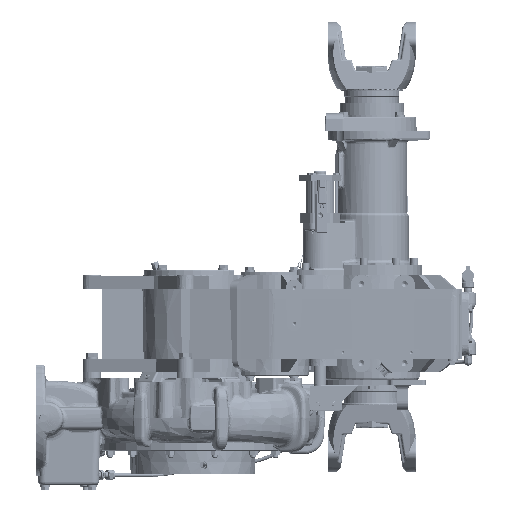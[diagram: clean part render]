
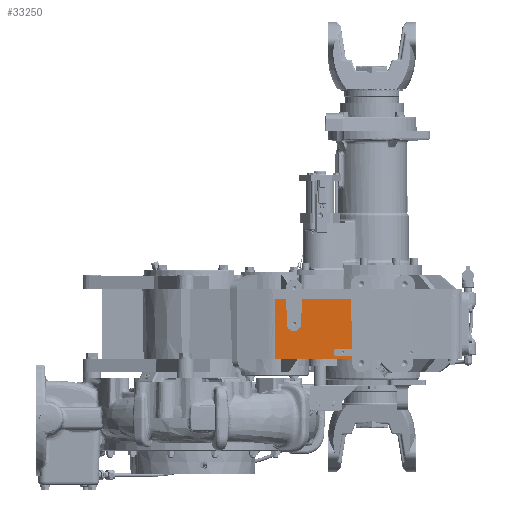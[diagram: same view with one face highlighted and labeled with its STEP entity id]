
A CAD part, left-side view. The second image highlights one B-rep face of the part: STEP entity #33250.
In plain terms, the highlighted planar face has unit normal (-1, 0, -0.018).
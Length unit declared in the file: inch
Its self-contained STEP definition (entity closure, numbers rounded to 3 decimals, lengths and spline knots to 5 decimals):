
#2659 = LINE ( 'NONE', #538813, #907716 ) ;
#5561 = VECTOR ( 'NONE', #624081, 39.37008 ) ;
#11364 = EDGE_LOOP ( 'NONE', ( #640514, #461170, #836702, #663861, #849968, #460154, #661758, #107638, #260238, #334453, #312518, #702476 ) ) ;
#25537 = LINE ( 'NONE', #597079, #930705 ) ;
#33250 = ADVANCED_FACE ( 'NONE', ( #568598 ), #447699, .T. ) ;
#58345 = LINE ( 'NONE', #839805, #935881 ) ;
#64275 = CARTESIAN_POINT ( 'NONE',  ( -4.6453, 5.89996, -2.44618 ) ) ;
#70422 = EDGE_CURVE ( 'NONE', #506615, #638615, #2659, .T. ) ;
#72098 = DIRECTION ( 'NONE',  ( 0., -1., 0. ) ) ;
#102026 = EDGE_CURVE ( 'NONE', #489327, #906015, #125451, .T. ) ;
#106008 = CARTESIAN_POINT ( 'NONE',  ( -4.60282, 1.35541, -4.88 ) ) ;
#107638 = ORIENTED_EDGE ( 'NONE', *, *, #70422, .T. ) ;
#125451 = LINE ( 'NONE', #1043341, #920622 ) ;
#133109 = DIRECTION ( 'NONE',  ( -0.017, 0., 1. ) ) ;
#163912 = CARTESIAN_POINT ( 'NONE',  ( -4.68967, 1.44229, 0.09579 ) ) ;
#165984 = DIRECTION ( 'NONE',  ( 0., -1., 0. ) ) ;
#176140 = CARTESIAN_POINT ( 'NONE',  ( -4.675, 5.92967, -0.74477 ) ) ;
#188291 = EDGE_CURVE ( 'NONE', #980737, #398067, #25537, .T. ) ;
#213677 = CARTESIAN_POINT ( 'NONE',  ( -4.64541, 5.4, -2.44 ) ) ;
#248436 = LINE ( 'NONE', #676476, #947710 ) ;
#252026 = DIRECTION ( 'NONE',  ( 0.017, -0.017, -1. ) ) ;
#260238 = ORIENTED_EDGE ( 'NONE', *, *, #978483, .T. ) ;
#280895 = VECTOR ( 'NONE', #649199, 39.37008 ) ;
#283340 = EDGE_CURVE ( 'NONE', #829088, #930241, #910820, .T. ) ;
#285345 = LINE ( 'NONE', #605362, #929779 ) ;
#298029 = DIRECTION ( 'NONE',  ( -1., 0., -0.017 ) ) ;
#307591 = VERTEX_POINT ( 'NONE', #587047 ) ;
#312518 = ORIENTED_EDGE ( 'NONE', *, *, #188291, .F. ) ;
#314839 = DIRECTION ( 'NONE',  ( 0., 1., 0. ) ) ;
#334453 = ORIENTED_EDGE ( 'NONE', *, *, #1117841, .F. ) ;
#339201 = CARTESIAN_POINT ( 'NONE',  ( -4.60282, 6.72903, -4.88 ) ) ;
#356402 = CARTESIAN_POINT ( 'NONE',  ( -4.61499, 1.36759, -4.1825 ) ) ;
#366012 = CARTESIAN_POINT ( 'NONE',  ( -4.6868, 4.8225, -0.06862 ) ) ;
#366898 = CARTESIAN_POINT ( 'NONE',  ( -4.64513, 4.90026, -2.45627 ) ) ;
#367540 = EDGE_CURVE ( 'NONE', #906015, #1007411, #718679, .T. ) ;
#371761 = VERTEX_POINT ( 'NONE', #106008 ) ;
#398067 = VERTEX_POINT ( 'NONE', #824204 ) ;
#401162 = CARTESIAN_POINT ( 'NONE',  ( -4.60622, 2.38, -4.685 ) ) ;
#419778 = EDGE_CURVE ( 'NONE', #1007411, #307591, #58345, .T. ) ;
#420025 = VERTEX_POINT ( 'NONE', #176140 ) ;
#447699 = PLANE ( 'NONE',  #833052 ) ;
#460154 = ORIENTED_EDGE ( 'NONE', *, *, #1109814, .F. ) ;
#461170 = ORIENTED_EDGE ( 'NONE', *, *, #367540, .F. ) ;
#489327 = VERTEX_POINT ( 'NONE', #748247 ) ;
#504054 = DIRECTION ( 'NONE',  ( 0., -1., 0. ) ) ;
#506615 = VERTEX_POINT ( 'NONE', #1040665 ) ;
#528444 = CARTESIAN_POINT ( 'NONE',  ( -4.68967, 1.44229, 0.09579 ) ) ;
#535849 = DIRECTION ( 'NONE',  ( -0.017, 0., 1. ) ) ;
#538813 = CARTESIAN_POINT ( 'NONE',  ( -4.688, 6.72903, 0. ) ) ;
#568598 = FACE_OUTER_BOUND ( 'NONE', #11364, .T. ) ;
#583530 = VECTOR ( 'NONE', #720849, 39.37008 ) ;
#587047 = CARTESIAN_POINT ( 'NONE',  ( -4.61499, 2.38, -4.1825 ) ) ;
#597079 = CARTESIAN_POINT ( 'NONE',  ( -4.60622, 6.93, -4.685 ) ) ;
#605362 = CARTESIAN_POINT ( 'NONE',  ( -4.60282, 12.43, -4.88 ) ) ;
#624081 = DIRECTION ( 'NONE',  ( 0.017, -0.017, -1. ) ) ;
#636535 = CARTESIAN_POINT ( 'NONE',  ( -4.6883, 5.94297, 0.01723 ) ) ;
#638615 = VERTEX_POINT ( 'NONE', #339201 ) ;
#640514 = ORIENTED_EDGE ( 'NONE', *, *, #419778, .F. ) ;
#649199 = DIRECTION ( 'NONE',  ( -0.017, -0.033, 0.999 ) ) ;
#661758 = ORIENTED_EDGE ( 'NONE', *, *, #812506, .F. ) ;
#663861 = ORIENTED_EDGE ( 'NONE', *, *, #996983, .F. ) ;
#676476 = CARTESIAN_POINT ( 'NONE',  ( -4.675, 6.93, -0.74477 ) ) ;
#691254 = CARTESIAN_POINT ( 'NONE',  ( -4.60622, 2.8825, -4.685 ) ) ;
#702476 = ORIENTED_EDGE ( 'NONE', *, *, #1078851, .F. ) ;
#718679 = LINE ( 'NONE', #163912, #1074934 ) ;
#720849 = DIRECTION ( 'NONE',  ( 0.017, -0.017, -1. ) ) ;
#722472 = DIRECTION ( 'NONE',  ( 0.017, 0., -1. ) ) ;
#748247 = CARTESIAN_POINT ( 'NONE',  ( -4.675, 4.84452, -0.74477 ) ) ;
#792742 = CARTESIAN_POINT ( 'NONE',  ( -4.688, 6.93, 0. ) ) ;
#812506 = EDGE_CURVE ( 'NONE', #506615, #420025, #248436, .T. ) ;
#824204 = CARTESIAN_POINT ( 'NONE',  ( -4.60622, 1.35881, -4.685 ) ) ;
#829088 = VERTEX_POINT ( 'NONE', #64275 ) ;
#833052 = AXIS2_PLACEMENT_3D ( 'NONE', #792742, #972582, #535849 ) ;
#836702 = ORIENTED_EDGE ( 'NONE', *, *, #102026, .F. ) ;
#839805 = CARTESIAN_POINT ( 'NONE',  ( -4.61499, 6.93, -4.1825 ) ) ;
#849968 = ORIENTED_EDGE ( 'NONE', *, *, #283340, .F. ) ;
#867386 = CARTESIAN_POINT ( 'NONE',  ( -4.675, 1.42761, -0.74477 ) ) ;
#906015 = VERTEX_POINT ( 'NONE', #867386 ) ;
#907716 = VECTOR ( 'NONE', #722472, 39.37008 ) ;
#910820 = CIRCLE ( 'NONE', #1012317, 0.5 ) ;
#920622 = VECTOR ( 'NONE', #165984, 39.37008 ) ;
#929779 = VECTOR ( 'NONE', #1130159, 39.37008 ) ;
#930241 = VERTEX_POINT ( 'NONE', #366898 ) ;
#930705 = VECTOR ( 'NONE', #72098, 39.37008 ) ;
#935881 = VECTOR ( 'NONE', #314839, 39.37008 ) ;
#947710 = VECTOR ( 'NONE', #504054, 39.37008 ) ;
#959448 = CARTESIAN_POINT ( 'NONE',  ( -4.61499, 2.8825, -4.1825 ) ) ;
#965836 = LINE ( 'NONE', #366012, #280895 ) ;
#972582 = DIRECTION ( 'NONE',  ( -1., 0., -0.017 ) ) ;
#972833 =( BOUNDED_CURVE ( )  B_SPLINE_CURVE ( 3, ( #1036269, #959448, #691254, #1047522 ),
 .UNSPECIFIED., .F., .F. ) 
 B_SPLINE_CURVE_WITH_KNOTS ( ( 4, 4 ),
 ( 0., 3.14159 ),
 .UNSPECIFIED. ) 
 CURVE ( )  GEOMETRIC_REPRESENTATION_ITEM ( )  RATIONAL_B_SPLINE_CURVE ( ( 1., 0.333, 0.333, 1. ) ) 
 REPRESENTATION_ITEM ( '' )  );
#978483 = EDGE_CURVE ( 'NONE', #638615, #371761, #285345, .T. ) ;
#978751 = LINE ( 'NONE', #528444, #5561 ) ;
#980737 = VERTEX_POINT ( 'NONE', #401162 ) ;
#996983 = EDGE_CURVE ( 'NONE', #930241, #489327, #965836, .T. ) ;
#1007411 = VERTEX_POINT ( 'NONE', #356402 ) ;
#1012317 = AXIS2_PLACEMENT_3D ( 'NONE', #213677, #298029, #133109 ) ;
#1036269 = CARTESIAN_POINT ( 'NONE',  ( -4.61499, 2.38, -4.1825 ) ) ;
#1040665 = CARTESIAN_POINT ( 'NONE',  ( -4.675, 6.72903, -0.74477 ) ) ;
#1043341 = CARTESIAN_POINT ( 'NONE',  ( -4.675, 6.93, -0.74477 ) ) ;
#1047522 = CARTESIAN_POINT ( 'NONE',  ( -4.60622, 2.38, -4.685 ) ) ;
#1074934 = VECTOR ( 'NONE', #252026, 39.37008 ) ;
#1078851 = EDGE_CURVE ( 'NONE', #307591, #980737, #972833, .T. ) ;
#1104576 = LINE ( 'NONE', #636535, #583530 ) ;
#1109814 = EDGE_CURVE ( 'NONE', #420025, #829088, #1104576, .T. ) ;
#1117841 = EDGE_CURVE ( 'NONE', #398067, #371761, #978751, .T. ) ;
#1130159 = DIRECTION ( 'NONE',  ( 0., -1., 0. ) ) ;
